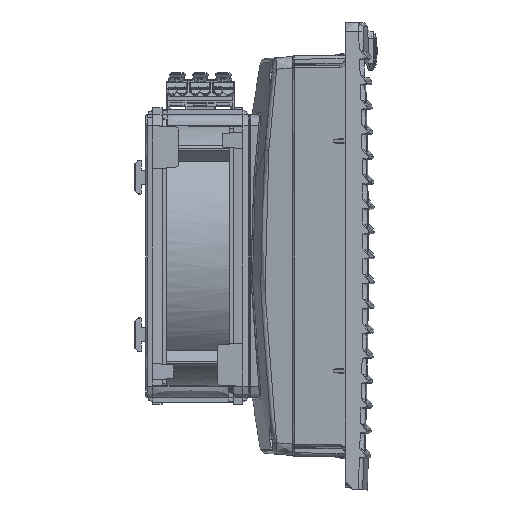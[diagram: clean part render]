
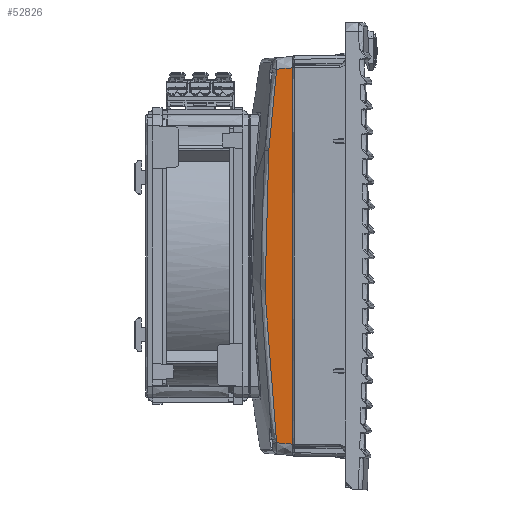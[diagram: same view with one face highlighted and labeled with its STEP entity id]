
A CAD part, left-side view. The second image highlights one B-rep face of the part: STEP entity #52826.
In plain terms, the highlighted planar face has unit normal (-0.996, 0.087, 0).
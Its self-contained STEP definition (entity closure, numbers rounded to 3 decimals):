
#52826=ADVANCED_FACE('',(#58199),#178364,.T.);
#58199=FACE_OUTER_BOUND('',#63695,.T.);
#63695=EDGE_LOOP('',(#79469,#79470,#79471,#79472,#79473,#79474,#79475,#79476,
#79477));
#79469=ORIENTED_EDGE('',*,*,#106090,.T.);
#79470=ORIENTED_EDGE('',*,*,#106091,.T.);
#79471=ORIENTED_EDGE('',*,*,#106092,.T.);
#79472=ORIENTED_EDGE('',*,*,#106093,.T.);
#79473=ORIENTED_EDGE('',*,*,#106094,.T.);
#79474=ORIENTED_EDGE('',*,*,#106095,.T.);
#79475=ORIENTED_EDGE('',*,*,#106096,.T.);
#79476=ORIENTED_EDGE('',*,*,#106097,.T.);
#79477=ORIENTED_EDGE('',*,*,#106098,.T.);
#106090=EDGE_CURVE('',#158980,#158981,#134090,.T.);
#106091=EDGE_CURVE('',#158981,#158982,#134091,.T.);
#106092=EDGE_CURVE('',#158982,#158983,#134092,.T.);
#106093=EDGE_CURVE('',#158983,#158984,#134093,.T.);
#106094=EDGE_CURVE('',#158984,#158985,#134094,.T.);
#106095=EDGE_CURVE('',#158985,#158986,#134095,.T.);
#106096=EDGE_CURVE('',#158986,#158987,#134096,.T.);
#106097=EDGE_CURVE('',#158987,#158988,#134097,.T.);
#106098=EDGE_CURVE('',#158988,#158980,#134098,.T.);
#134090=B_SPLINE_CURVE_WITH_KNOTS('',1,(#272823,#272824),.UNSPECIFIED.,
 .F.,.F.,(2,2),(0.,72.57),.UNSPECIFIED.);
#134091=B_SPLINE_CURVE_WITH_KNOTS('',1,(#272825,#272826),.UNSPECIFIED.,
 .F.,.F.,(2,2),(0.,6.915),.UNSPECIFIED.);
#134092=B_SPLINE_CURVE_WITH_KNOTS('',4,(#272827,#272828,#272829,#272830,
#272831),.UNSPECIFIED.,.F.,.F.,(5,5),(0.,35.635),
 .UNSPECIFIED.);
#134093=B_SPLINE_CURVE_WITH_KNOTS('',5,(#272832,#272833,#272834,#272835,
#272836,#272837,#272838,#272839,#272840,#272841,#272842,#272843,#272844,
#272845,#272846),.UNSPECIFIED.,.F.,.F.,(6,3,3,3,6),(0.,35.302,
74.225,103.187,127.645),.UNSPECIFIED.);
#134094=B_SPLINE_CURVE_WITH_KNOTS('',1,(#272847,#272848),.UNSPECIFIED.,
 .F.,.F.,(2,2),(0.,6.915),.UNSPECIFIED.);
#134095=B_SPLINE_CURVE_WITH_KNOTS('',1,(#272849,#272850),.UNSPECIFIED.,
 .F.,.F.,(2,2),(0.,72.57),.UNSPECIFIED.);
#134096=B_SPLINE_CURVE_WITH_KNOTS('',1,(#272851,#272852),.UNSPECIFIED.,
 .F.,.F.,(2,2),(0.,4.398),.UNSPECIFIED.);
#134097=B_SPLINE_CURVE_WITH_KNOTS('',1,(#272853,#272854),.UNSPECIFIED.,
 .F.,.F.,(2,2),(0.,10.102),.UNSPECIFIED.);
#134098=B_SPLINE_CURVE_WITH_KNOTS('',1,(#272855,#272856),.UNSPECIFIED.,
 .F.,.F.,(2,2),(0.,4.398),.UNSPECIFIED.);
#158980=VERTEX_POINT('',#272814);
#158981=VERTEX_POINT('',#272815);
#158982=VERTEX_POINT('',#272816);
#158983=VERTEX_POINT('',#272817);
#158984=VERTEX_POINT('',#272818);
#158985=VERTEX_POINT('',#272819);
#158986=VERTEX_POINT('',#272820);
#158987=VERTEX_POINT('',#272821);
#158988=VERTEX_POINT('',#272822);
#178364=PLANE('',#179847);
#179847=AXIS2_PLACEMENT_3D('',#272813,#181314,$);
#181314=DIRECTION('',(-0.996,0.087,0.));
#272813=CARTESIAN_POINT('',(117.815,-64.338,25.381));
#272814=CARTESIAN_POINT('',(116.64,-77.778,133.265));
#272815=CARTESIAN_POINT('',(116.64,-77.778,205.835));
#272816=CARTESIAN_POINT('',(117.24,-70.916,205.234));
#272817=CARTESIAN_POINT('',(117.537,-67.521,169.765));
#272818=CARTESIAN_POINT('',(117.24,-70.916,42.397));
#272819=CARTESIAN_POINT('',(116.64,-77.778,41.797));
#272820=CARTESIAN_POINT('',(116.64,-77.778,114.367));
#272821=CARTESIAN_POINT('',(116.64,-77.778,118.765));
#272822=CARTESIAN_POINT('',(116.64,-77.778,128.867));
#272823=CARTESIAN_POINT('',(116.64,-77.778,133.265));
#272824=CARTESIAN_POINT('',(116.64,-77.778,205.835));
#272825=CARTESIAN_POINT('',(116.64,-77.778,205.835));
#272826=CARTESIAN_POINT('',(117.24,-70.916,205.234));
#272827=CARTESIAN_POINT('',(117.24,-70.916,205.234));
#272828=CARTESIAN_POINT('',(117.328,-69.911,196.183));
#272829=CARTESIAN_POINT('',(117.408,-68.989,187.207));
#272830=CARTESIAN_POINT('',(117.479,-68.184,178.381));
#272831=CARTESIAN_POINT('',(117.537,-67.521,169.765));
#272832=CARTESIAN_POINT('',(117.537,-67.521,169.765));
#272833=CARTESIAN_POINT('',(117.586,-66.966,162.535));
#272834=CARTESIAN_POINT('',(117.626,-66.504,155.442));
#272835=CARTESIAN_POINT('',(117.657,-66.147,148.511));
#272836=CARTESIAN_POINT('',(117.703,-65.622,134.189));
#272837=CARTESIAN_POINT('',(117.707,-65.571,120.152));
#272838=CARTESIAN_POINT('',(117.698,-65.676,112.776));
#272839=CARTESIAN_POINT('',(117.662,-66.087,99.736));
#272840=CARTESIAN_POINT('',(117.592,-66.888,86.229));
#272841=CARTESIAN_POINT('',(117.556,-67.299,80.37));
#272842=CARTESIAN_POINT('',(117.48,-68.176,69.374));
#272843=CARTESIAN_POINT('',(117.386,-69.247,58.106));
#272844=CARTESIAN_POINT('',(117.34,-69.774,52.9));
#272845=CARTESIAN_POINT('',(117.291,-70.332,47.66));
#272846=CARTESIAN_POINT('',(117.24,-70.916,42.397));
#272847=CARTESIAN_POINT('',(117.24,-70.916,42.397));
#272848=CARTESIAN_POINT('',(116.64,-77.778,41.797));
#272849=CARTESIAN_POINT('',(116.64,-77.778,41.797));
#272850=CARTESIAN_POINT('',(116.64,-77.778,114.367));
#272851=CARTESIAN_POINT('',(116.64,-77.778,114.367));
#272852=CARTESIAN_POINT('',(116.64,-77.778,118.765));
#272853=CARTESIAN_POINT('',(116.64,-77.778,118.765));
#272854=CARTESIAN_POINT('',(116.64,-77.778,128.867));
#272855=CARTESIAN_POINT('',(116.64,-77.778,128.867));
#272856=CARTESIAN_POINT('',(116.64,-77.778,133.265));
